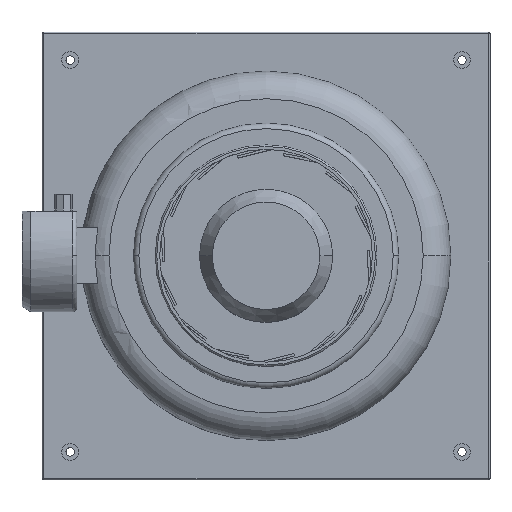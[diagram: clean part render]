
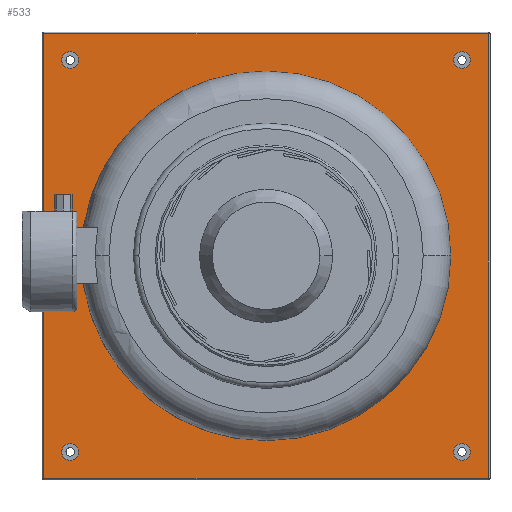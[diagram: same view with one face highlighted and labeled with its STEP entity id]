
A CAD part, top view. The second image highlights one B-rep face of the part: STEP entity #533.
In plain terms, the highlighted planar face has unit normal (0, 0, 1).
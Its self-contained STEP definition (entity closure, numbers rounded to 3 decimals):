
#533=ADVANCED_FACE('',(#1087,#1088,#1089,#1090,#1091,#1092),#1093,.T.);
#1087=FACE_BOUND('',#1642,.T.);
#1088=FACE_BOUND('',#1643,.T.);
#1089=FACE_BOUND('',#1644,.T.);
#1090=FACE_BOUND('',#1645,.T.);
#1091=FACE_BOUND('',#1646,.T.);
#1092=FACE_OUTER_BOUND('',#1647,.T.);
#1093=PLANE('',#1648);
#1642=EDGE_LOOP('',(#3288,#3289));
#1643=EDGE_LOOP('',(#3290,#3291));
#1644=EDGE_LOOP('',(#3292,#3293));
#1645=EDGE_LOOP('',(#3294,#3295));
#1646=EDGE_LOOP('',(#3296,#3297));
#1647=EDGE_LOOP('',(#3298,#3299,#3300,#3301));
#1648=AXIS2_PLACEMENT_3D('',#3302,#3303,#3304);
#3288=ORIENTED_EDGE('',*,*,#3455,.T.);
#3289=ORIENTED_EDGE('',*,*,#3550,.T.);
#3290=ORIENTED_EDGE('',*,*,#3358,.T.);
#3291=ORIENTED_EDGE('',*,*,#3884,.T.);
#3292=ORIENTED_EDGE('',*,*,#3348,.T.);
#3293=ORIENTED_EDGE('',*,*,#3891,.T.);
#3294=ORIENTED_EDGE('',*,*,#3338,.T.);
#3295=ORIENTED_EDGE('',*,*,#3898,.T.);
#3296=ORIENTED_EDGE('',*,*,#3328,.T.);
#3297=ORIENTED_EDGE('',*,*,#3905,.T.);
#3298=ORIENTED_EDGE('',*,*,#3977,.F.);
#3299=ORIENTED_EDGE('',*,*,#3917,.F.);
#3300=ORIENTED_EDGE('',*,*,#3979,.T.);
#3301=ORIENTED_EDGE('',*,*,#3962,.T.);
#3302=CARTESIAN_POINT('',(0.0,0.0,-65.5));
#3303=DIRECTION('',(0.0,-0.0,1.0));
#3304=DIRECTION('',(0.,1.0,0.0));
#3328=EDGE_CURVE('',#3995,#3992,#3996,.T.);
#3338=EDGE_CURVE('',#4013,#4010,#4014,.T.);
#3348=EDGE_CURVE('',#4031,#4028,#4032,.T.);
#3358=EDGE_CURVE('',#4049,#4046,#4050,.T.);
#3455=EDGE_CURVE('',#4226,#4223,#4227,.T.);
#3550=EDGE_CURVE('',#4223,#4226,#4367,.T.);
#3884=EDGE_CURVE('',#4046,#4049,#4841,.T.);
#3891=EDGE_CURVE('',#4028,#4031,#4848,.T.);
#3898=EDGE_CURVE('',#4010,#4013,#4855,.T.);
#3905=EDGE_CURVE('',#3992,#3995,#4862,.T.);
#3917=EDGE_CURVE('',#4866,#4879,#4880,.T.);
#3962=EDGE_CURVE('',#4939,#4898,#4943,.T.);
#3977=EDGE_CURVE('',#4879,#4898,#4958,.T.);
#3979=EDGE_CURVE('',#4866,#4939,#4960,.T.);
#3992=VERTEX_POINT('',#4975);
#3995=VERTEX_POINT('',#4979);
#3996=CIRCLE('',#4980,7.5);
#4010=VERTEX_POINT('',#4997);
#4013=VERTEX_POINT('',#5001);
#4014=CIRCLE('',#5002,7.5);
#4028=VERTEX_POINT('',#5019);
#4031=VERTEX_POINT('',#5023);
#4032=CIRCLE('',#5024,7.5);
#4046=VERTEX_POINT('',#5041);
#4049=VERTEX_POINT('',#5045);
#4050=CIRCLE('',#5046,7.5);
#4223=VERTEX_POINT('',#5248);
#4226=VERTEX_POINT('',#5252);
#4227=CIRCLE('',#5253,165.0);
#4367=CIRCLE('',#5597,165.0);
#4841=CIRCLE('',#6281,7.5);
#4848=CIRCLE('',#6288,7.5);
#4855=CIRCLE('',#6295,7.5);
#4862=CIRCLE('',#6302,7.5);
#4866=VERTEX_POINT('',#6306);
#4879=VERTEX_POINT('',#6321);
#4880=LINE('',#6322,#6323);
#4898=VERTEX_POINT('',#6344);
#4939=VERTEX_POINT('',#6393);
#4943=LINE('',#6397,#6398);
#4958=LINE('',#6420,#6421);
#4960=LINE('',#6423,#6424);
#4975=CARTESIAN_POINT('',(-175.0,182.5,-65.5));
#4979=CARTESIAN_POINT('',(-175.0,167.5,-65.5));
#4980=AXIS2_PLACEMENT_3D('',#6436,#6437,#6438);
#4997=CARTESIAN_POINT('',(-175.0,-167.5,-65.5));
#5001=CARTESIAN_POINT('',(-175.0,-182.5,-65.5));
#5002=AXIS2_PLACEMENT_3D('',#6452,#6453,#6454);
#5019=CARTESIAN_POINT('',(175.0,-167.5,-65.5));
#5023=CARTESIAN_POINT('',(175.0,-182.5,-65.5));
#5024=AXIS2_PLACEMENT_3D('',#6468,#6469,#6470);
#5041=CARTESIAN_POINT('',(175.0,182.5,-65.5));
#5045=CARTESIAN_POINT('',(175.0,167.5,-65.5));
#5046=AXIS2_PLACEMENT_3D('',#6484,#6485,#6486);
#5248=CARTESIAN_POINT('',(0.,165.0,-65.5));
#5252=CARTESIAN_POINT('',(0.,-165.0,-65.5));
#5253=AXIS2_PLACEMENT_3D('',#6679,#6680,#6681);
#5597=AXIS2_PLACEMENT_3D('',#6795,#6796,#6797);
#6281=AXIS2_PLACEMENT_3D('',#7107,#7108,#7109);
#6288=AXIS2_PLACEMENT_3D('',#7119,#7120,#7121);
#6295=AXIS2_PLACEMENT_3D('',#7131,#7132,#7133);
#6302=AXIS2_PLACEMENT_3D('',#7143,#7144,#7145);
#6306=CARTESIAN_POINT('',(198.5,198.5,-65.5));
#6321=CARTESIAN_POINT('',(198.5,-198.5,-65.5));
#6322=CARTESIAN_POINT('',(198.5,0.,-65.5));
#6323=VECTOR('',#7163,1.0);
#6344=CARTESIAN_POINT('',(-198.5,-198.5,-65.5));
#6393=CARTESIAN_POINT('',(-198.5,198.5,-65.5));
#6397=CARTESIAN_POINT('',(-198.5,0.,-65.5));
#6398=VECTOR('',#7235,1.0);
#6420=CARTESIAN_POINT('',(0.,-198.5,-65.5));
#6421=VECTOR('',#7243,1.0);
#6423=CARTESIAN_POINT('',(0.,198.5,-65.5));
#6424=VECTOR('',#7244,1.0);
#6436=CARTESIAN_POINT('',(-175.0,175.0,-65.5));
#6437=DIRECTION('',(0.0,0.0,-1.0));
#6438=DIRECTION('',(0.,1.0,0.0));
#6452=CARTESIAN_POINT('',(-175.0,-175.0,-65.5));
#6453=DIRECTION('',(0.0,0.0,-1.0));
#6454=DIRECTION('',(0.,1.0,0.0));
#6468=CARTESIAN_POINT('',(175.0,-175.0,-65.5));
#6469=DIRECTION('',(0.0,0.0,-1.0));
#6470=DIRECTION('',(0.,1.0,0.0));
#6484=CARTESIAN_POINT('',(175.0,175.0,-65.5));
#6485=DIRECTION('',(0.0,0.0,-1.0));
#6486=DIRECTION('',(0.,1.0,0.0));
#6679=CARTESIAN_POINT('',(0.0,0.0,-65.5));
#6680=DIRECTION('',(0.0,0.0,-1.0));
#6681=DIRECTION('',(0.,1.0,0.0));
#6795=CARTESIAN_POINT('',(0.0,0.0,-65.5));
#6796=DIRECTION('',(0.0,0.0,-1.0));
#6797=DIRECTION('',(0.,1.0,0.0));
#7107=CARTESIAN_POINT('',(175.0,175.0,-65.5));
#7108=DIRECTION('',(0.0,0.0,-1.0));
#7109=DIRECTION('',(0.,1.0,0.0));
#7119=CARTESIAN_POINT('',(175.0,-175.0,-65.5));
#7120=DIRECTION('',(0.0,0.0,-1.0));
#7121=DIRECTION('',(0.,1.0,0.0));
#7131=CARTESIAN_POINT('',(-175.0,-175.0,-65.5));
#7132=DIRECTION('',(0.0,0.0,-1.0));
#7133=DIRECTION('',(0.,1.0,0.0));
#7143=CARTESIAN_POINT('',(-175.0,175.0,-65.5));
#7144=DIRECTION('',(0.0,0.0,-1.0));
#7145=DIRECTION('',(0.,1.0,0.0));
#7163=DIRECTION('',(0.,-1.0,0.));
#7235=DIRECTION('',(0.,-1.0,0.));
#7243=DIRECTION('',(-1.0,0.,0.));
#7244=DIRECTION('',(-1.0,0.,0.));
